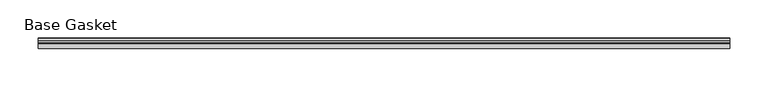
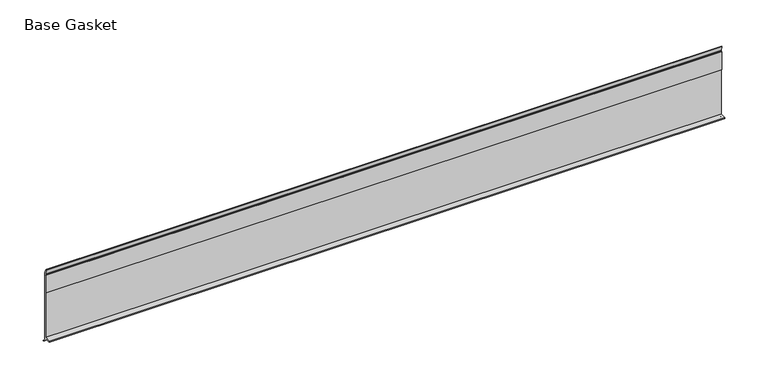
"""IFC4 building model written with IfcOpenShell, lengths in millimetres: furniture geometry, Gasket-Teknion-FHGB-AI_Healthcare-R2021 : Base Gasket."""

from ifc_helpers import new_model, si_unit, frame, origin, place, context, project, spatial, polyline, outline, extrude, source, transform, mapped, element, save


def base_gasket_881e2ffe(model_context):
    return source(origin(), model_context, "Body", "SweptSolid", [
        extrude(outline(polyline([(3.7283812, 98.4568417), (3.7283812, 4.3498477), (7.4222115, 0.6560174), (7.8482342, 0.0), (6.8281054, 0.3520979), (2.2043812, 4.3498477), (2.1334222, 6.3818476), (-6.2405171, 6.3818476), (-6.2405171, 7.9398773), (2.2043812, 7.9398773), (2.2043812, 71.4693447), (1.4106313, 71.4693447), (1.4106313, 96.8693477), (2.2043812, 96.8693477), (2.2043812, 98.4568417), (0.6755308, 104.4162708), (0.6755308, 105.2002997), (1.1891543, 104.587663), (3.7283812, 98.4568417)])), frame((-1527.8982117, 0.0, 0.0), z_axis=(1.0, 0.0, 0.0), x_axis=(0.0, 1.0, 0.0)), (0.0, 0.0, 1.0), 904.7750229),
    ])


if __name__ == "__main__":
    model = new_model("IFC4")
    model_context = context("Model", 3, world=origin())
    ifc_project = project(units=[si_unit("LENGTHUNIT", "METRE", prefix="MILLI")], contexts=[model_context])
    site = spatial("IfcSite", under=ifc_project)
    building = spatial("IfcBuilding", under=site)
    placement = place(None, origin())
    base_gasket_shape = base_gasket_881e2ffe(model_context)
    element("IfcFurniture", 1, ObjectType="Gasket-Teknion-FHGB-AI_Healthcare-R2021 : Base Gasket", at=placement, inside=building, context=model_context, shape_type="MappedRepresentation", body=[
        mapped(base_gasket_shape, transform((0.0, 0.0, 0.0), x_axis=(1.0, 0.0, 0.0), y_axis=(0.0, 1.0, 0.0), z_axis=(0.0, 0.0, 1.0))),
    ])
    save(model, "model.ifc")
